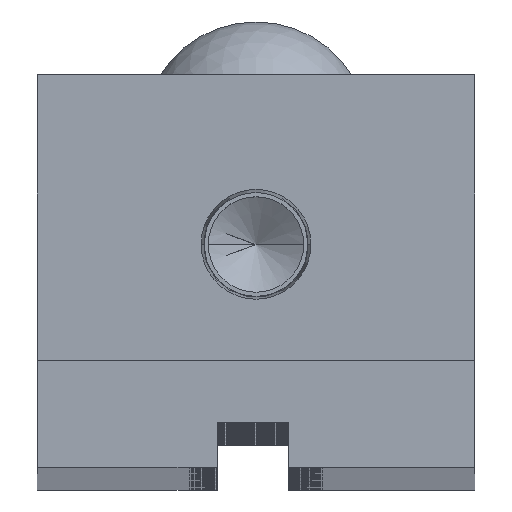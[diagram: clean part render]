
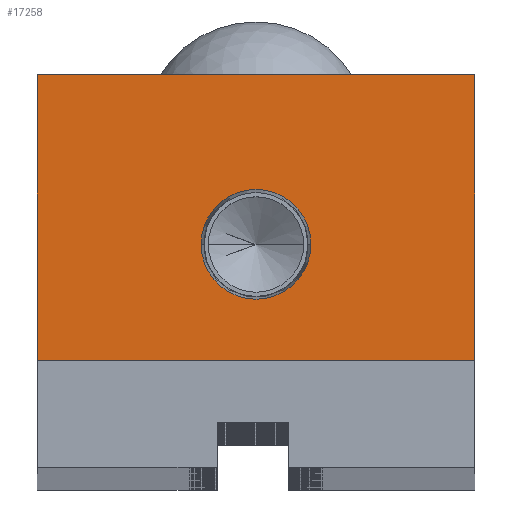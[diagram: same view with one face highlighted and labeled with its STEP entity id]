
A CAD part, top view. The second image highlights one B-rep face of the part: STEP entity #17258.
In plain terms, the highlighted planar face has unit normal (0, 0, 1).
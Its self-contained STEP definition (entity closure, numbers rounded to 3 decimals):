
#735 = PLANE ( 'NONE',  #4608 ) ;
#1183 = EDGE_LOOP ( 'NONE', ( #30656, #9612, #14671, #12094 ) ) ;
#2094 = EDGE_LOOP ( 'NONE', ( #30340, #20130 ) ) ;
#2130 = LINE ( 'NONE', #30593, #7412 ) ;
#2131 = EDGE_CURVE ( 'NONE', #16831, #12333, #2130, .T. ) ;
#3309 = DIRECTION ( 'NONE',  ( 0., 0., 1. ) ) ;
#4363 = VERTEX_POINT ( 'NONE', #31223 ) ;
#4578 = CARTESIAN_POINT ( 'NONE',  ( -24.5, 0., 0. ) ) ;
#4608 = AXIS2_PLACEMENT_3D ( 'NONE', #8628, #26514, #11188 ) ;
#5076 = CIRCLE ( 'NONE', #33284, 6.154 ) ;
#7412 = VECTOR ( 'NONE', #15285, 1000. ) ;
#8167 = EDGE_CURVE ( 'NONE', #11731, #26250, #12717, .T. ) ;
#8628 = CARTESIAN_POINT ( 'NONE',  ( 0., 0., 0. ) ) ;
#8640 = FACE_OUTER_BOUND ( 'NONE', #1183, .T. ) ;
#9337 = CARTESIAN_POINT ( 'NONE',  ( 24.5, 32., 0. ) ) ;
#9528 = EDGE_CURVE ( 'NONE', #26250, #11731, #5076, .T. ) ;
#9612 = ORIENTED_EDGE ( 'NONE', *, *, #15270, .T. ) ;
#10850 = LINE ( 'NONE', #20572, #22870 ) ;
#11157 = LINE ( 'NONE', #31518, #23957 ) ;
#11188 = DIRECTION ( 'NONE',  ( -1., 0., 0. ) ) ;
#11591 = CARTESIAN_POINT ( 'NONE',  ( -24.5, 32., 0. ) ) ;
#11664 = CARTESIAN_POINT ( 'NONE',  ( 24.5, 0., 0. ) ) ;
#11731 = VERTEX_POINT ( 'NONE', #24215 ) ;
#12094 = ORIENTED_EDGE ( 'NONE', *, *, #29290, .T. ) ;
#12333 = VERTEX_POINT ( 'NONE', #9337 ) ;
#12717 = CIRCLE ( 'NONE', #29115, 6.154 ) ;
#13503 = CARTESIAN_POINT ( 'NONE',  ( 0., 13., 0. ) ) ;
#14671 = ORIENTED_EDGE ( 'NONE', *, *, #2131, .T. ) ;
#15270 = EDGE_CURVE ( 'NONE', #4363, #16831, #11157, .T. ) ;
#15285 = DIRECTION ( 'NONE',  ( 0., 1., 0. ) ) ;
#15501 = EDGE_CURVE ( 'NONE', #15850, #4363, #18336, .T. ) ;
#15850 = VERTEX_POINT ( 'NONE', #11591 ) ;
#16096 = DIRECTION ( 'NONE',  ( 1., 0., 0. ) ) ;
#16209 = DIRECTION ( 'NONE',  ( 1., 0., 0. ) ) ;
#16831 = VERTEX_POINT ( 'NONE', #11664 ) ;
#17258 = ADVANCED_FACE ( 'NONE', ( #23038, #8640 ), #735, .F. ) ;
#18336 = LINE ( 'NONE', #4578, #19131 ) ;
#18632 = CARTESIAN_POINT ( 'NONE',  ( 0., 13., 0. ) ) ;
#19131 = VECTOR ( 'NONE', #22466, 1000. ) ;
#20130 = ORIENTED_EDGE ( 'NONE', *, *, #9528, .F. ) ;
#20572 = CARTESIAN_POINT ( 'NONE',  ( -24.5, 32., 0. ) ) ;
#21242 = DIRECTION ( 'NONE',  ( 1., 0., 0. ) ) ;
#22466 = DIRECTION ( 'NONE',  ( 0., -1., 0. ) ) ;
#22870 = VECTOR ( 'NONE', #28302, 1000. ) ;
#23038 = FACE_BOUND ( 'NONE', #2094, .T. ) ;
#23957 = VECTOR ( 'NONE', #16209, 1000. ) ;
#24215 = CARTESIAN_POINT ( 'NONE',  ( 6.154, 13., 0. ) ) ;
#25006 = CARTESIAN_POINT ( 'NONE',  ( -6.154, 13., 0. ) ) ;
#26250 = VERTEX_POINT ( 'NONE', #25006 ) ;
#26514 = DIRECTION ( 'NONE',  ( 0., 0., -1. ) ) ;
#28302 = DIRECTION ( 'NONE',  ( -1., 0., 0. ) ) ;
#29115 = AXIS2_PLACEMENT_3D ( 'NONE', #13503, #31400, #16096 ) ;
#29290 = EDGE_CURVE ( 'NONE', #12333, #15850, #10850, .T. ) ;
#30340 = ORIENTED_EDGE ( 'NONE', *, *, #8167, .F. ) ;
#30593 = CARTESIAN_POINT ( 'NONE',  ( 24.5, 32., 0. ) ) ;
#30656 = ORIENTED_EDGE ( 'NONE', *, *, #15501, .T. ) ;
#31223 = CARTESIAN_POINT ( 'NONE',  ( -24.5, 0., 0. ) ) ;
#31400 = DIRECTION ( 'NONE',  ( 0., 0., 1. ) ) ;
#31518 = CARTESIAN_POINT ( 'NONE',  ( 24.5, 0., 0. ) ) ;
#33284 = AXIS2_PLACEMENT_3D ( 'NONE', #18632, #3309, #21242 ) ;
